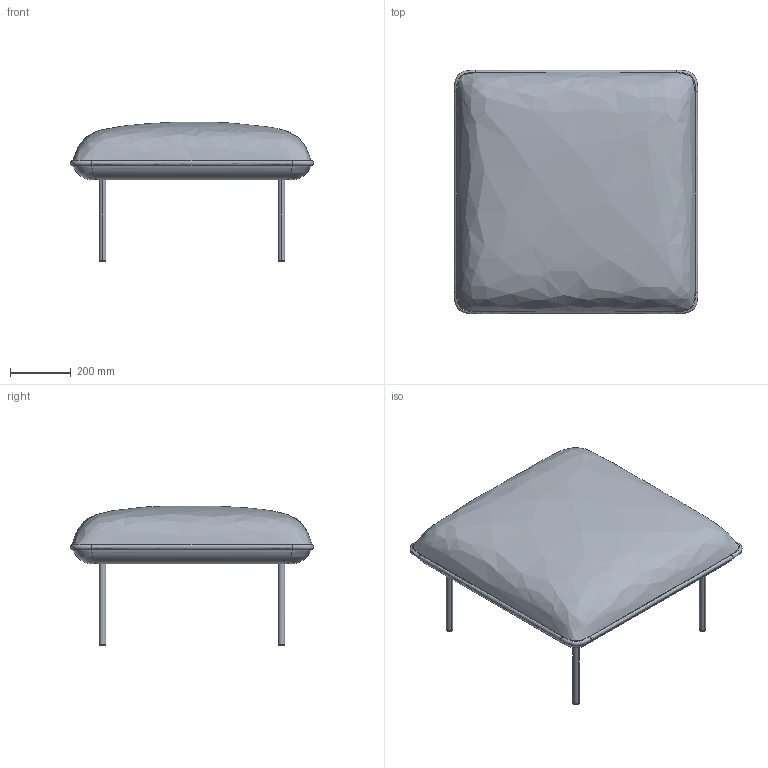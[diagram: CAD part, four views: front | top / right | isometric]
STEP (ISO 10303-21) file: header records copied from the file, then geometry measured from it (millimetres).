
FILE_DESCRIPTION(/* description */ (''),/* implementation_level */ '2;1');
FILE_NAME(/* name */ 'Nakki ottoman',/* time_stamp */ '2020-04-03T17:29:13+02:00',/* author */ (''),/* organization */ (''),/* preprocessor_version */ 'ST-DEVELOPER v15',/* originating_system */ '',/* authorisation */ '');
FILE_SCHEMA (('AUTOMOTIVE_DESIGN'));
Length unit declared in the file: millimetre
Products named in the file (1): Document
Bounding box: 800 x 800 x 459.24 mm (x, y, z)
Volume: 94878437.8 mm3; surface area: 1737997.6 mm2
Topology: 10 solids, 10 shells, 74 faces, 144 edges, 88 vertices
Faces by surface type: bspline 74
Entity records: 12421 total; most frequent: CARTESIAN_POINT 10570, B_SPLINE_CURVE_WITH_KNOTS 294, ORIENTED_EDGE 288, PCURVE 288, DEFINITIONAL_REPRESENTATION 288, SURFACE_CURVE 144, EDGE_CURVE 144, VERTEX_POINT 88
